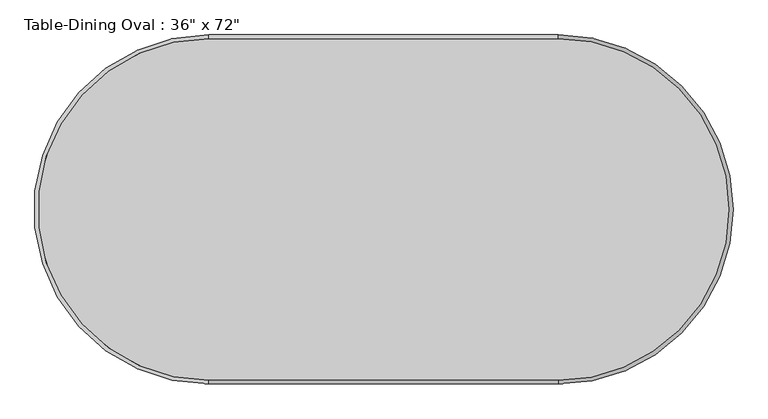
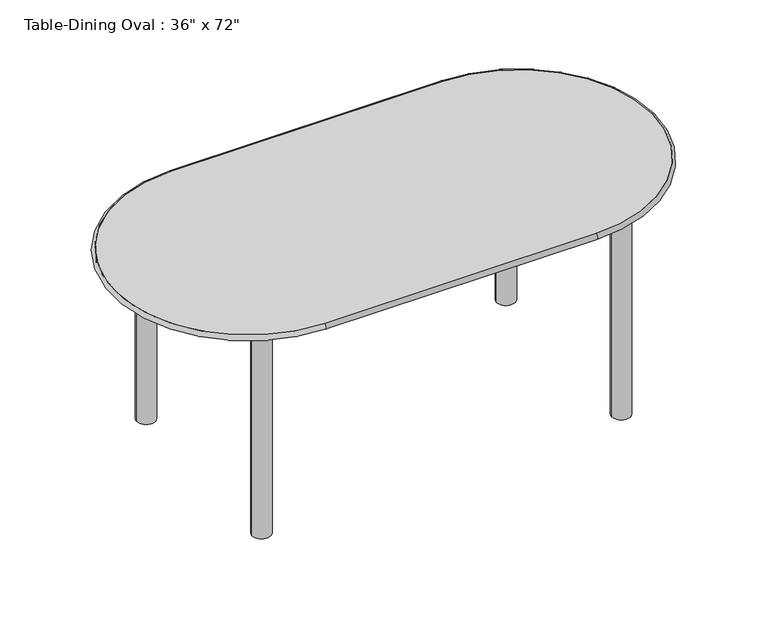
"""IFC4 building model written with IfcOpenShell, lengths in millimetres: furniture geometry."""

import ifcopenshell
import ifcopenshell.guid

model = None  # the IFC model being written
_history = None  # IfcOwnerHistory: only IFC2X3 demands one
_inside = {}  # id of a spatial element -> (the spatial element, [elements in it])
_under = {}  # id of a project, library or spatial element -> (it, [spatial elements below it])
_declared = {}  # id of a project -> (the project, [libraries it declares])
_typed = {}  # id of a type object -> (the type object, [elements of that type])
_made_of = {}  # id of a material, layer set ... -> (it, [elements and type objects made of it])


def new_model(schema):
    """Start an empty IFC model of exactly this schema.

    Asked for "IFC4X3", IfcOpenShell would pick the latest addendum, in which some entities
    have other attributes; the version numbers below select the first issue.
    IFC2X3 requires an IfcOwnerHistory on every rooted entity: one is made here for all.
    """
    global model, _history
    if schema == "IFC4X3":
        model = ifcopenshell.file(schema_version=(4, 3, 0, 0))
    else:
        model = ifcopenshell.file(schema=schema)
    _inside.clear()
    _under.clear()
    _declared.clear()
    _typed.clear()
    _made_of.clear()
    _history = None
    if model.schema == "IFC2X3":
        org = make("IfcOrganization", Name="unknown")
        user = make(
            "IfcPersonAndOrganization",
            ThePerson=make("IfcPerson", FamilyName="unknown"),
            TheOrganization=org,
        )
        app = make(
            "IfcApplication",
            ApplicationDeveloper=org,
            Version="unknown",
            ApplicationFullName="unknown",
            ApplicationIdentifier="unknown",
        )
        _history = make(
            "IfcOwnerHistory",
            OwningUser=user,
            OwningApplication=app,
            ChangeAction="ADDED",
            CreationDate=0,
        )
    return model


def make(cls, **values):
    """One entity of the class cls with the attributes given. An attribute that is None is left unset."""
    return model.create_entity(
        cls, **{name: value for name, value in values.items() if value is not None}
    )


def rooted(cls, **values):
    """An entity with a GlobalId (a new one), such as an element, a storey or a relation."""
    return make(cls, GlobalId=ifcopenshell.guid.new(), OwnerHistory=_history, **values)


def si_unit(unit_type, name, prefix=None):
    """IfcSIUnit, for example si_unit("LENGTHUNIT", "METRE", prefix="MILLI")."""
    return make("IfcSIUnit", UnitType=unit_type, Prefix=prefix, Name=name)


def assignment(units):
    """IfcUnitAssignment: the units of a project."""
    return None if units is None else make("IfcUnitAssignment", Units=units)


def point(xyz):
    """IfcCartesianPoint."""
    return None if xyz is None else make("IfcCartesianPoint", Coordinates=xyz)


def direction(xyz):
    """IfcDirection."""
    return None if xyz is None else make("IfcDirection", DirectionRatios=xyz)


def frame(location, z_axis=None, x_axis=None):
    """IfcAxis2Placement3D, a coordinate frame: its origin and axes. An axis left out is left unset."""
    return make(
        "IfcAxis2Placement3D",
        Location=point(location),
        Axis=direction(z_axis),
        RefDirection=direction(x_axis),
    )


def frame_2d(location, x_axis=None):
    """IfcAxis2Placement2D, a coordinate frame in the plane: its origin and x axis."""
    return make(
        "IfcAxis2Placement2D", Location=point(location), RefDirection=direction(x_axis)
    )


def origin():
    """The frame at (0, 0, 0) with its axes left unset."""
    return frame((0.0, 0.0, 0.0))


def origin_with_axes():
    """The frame at (0, 0, 0) with the z axis (0, 0, 1) and the x axis (1, 0, 0) written out."""
    return frame((0.0, 0.0, 0.0), z_axis=(0.0, 0.0, 1.0), x_axis=(1.0, 0.0, 0.0))


def place(relative_to, where):
    """IfcLocalPlacement: puts the frame where relative to a parent placement (None: the world)."""
    return make(
        "IfcLocalPlacement", PlacementRelTo=relative_to, RelativePlacement=where
    )


def context(
    kind, dimensions, precision=None, world=None, true_north=None, identifier=None
):
    """IfcGeometricRepresentationContext, for example the 3D "Model" context."""
    return make(
        "IfcGeometricRepresentationContext",
        ContextIdentifier=identifier,
        ContextType=kind,
        CoordinateSpaceDimension=dimensions,
        Precision=precision,
        WorldCoordinateSystem=world,
        TrueNorth=true_north,
    )


def project(units=None, contexts=None):
    """IfcProject with its units and contexts."""
    return rooted(
        "IfcProject",
        Name="project",
        RepresentationContexts=contexts,
        UnitsInContext=assignment(units),
    )


def spatial(cls, under=None, at=None, **own):
    """A site, building, storey or space (cls), placed at a placement, below another one or the project."""
    s = rooted(cls, ObjectPlacement=at, **own)
    if under is not None:
        _under.setdefault(under.id(), (under, []))[1].append(s)
    return s


def polyline(points):
    """IfcPolyline through the points."""
    return make("IfcPolyline", Points=[point(p) for p in points])


def circle_curve(where, radius):
    """IfcCircle in the frame where."""
    return make("IfcCircle", Position=where, Radius=radius)


def ellipse_curve(where, semi_axis1, semi_axis2):
    """IfcEllipse in the frame where."""
    return make(
        "IfcEllipse", Position=where, SemiAxis1=semi_axis1, SemiAxis2=semi_axis2
    )


def trimmed(basis, trim1, trim2, sense, master):
    """IfcTrimmedCurve: the piece of a basis curve between two trims."""
    return make(
        "IfcTrimmedCurve",
        BasisCurve=basis,
        Trim1=trim1,
        Trim2=trim2,
        SenseAgreement=sense,
        MasterRepresentation=master,
    )


def segment(curve, same_sense, transition):
    """IfcCompositeCurveSegment."""
    return make(
        "IfcCompositeCurveSegment",
        Transition=transition,
        SameSense=same_sense,
        ParentCurve=curve,
    )


def composite_curve(segments, self_intersect=None):
    """IfcCompositeCurve: segments joined end to end."""
    return make("IfcCompositeCurve", Segments=segments, SelfIntersect=self_intersect)


def outline(outer, holes=None, kind="AREA"):
    """IfcArbitraryClosedProfileDef: a profile drawn as a closed curve; with holes, ...WithVoids."""
    if holes is None:
        return make("IfcArbitraryClosedProfileDef", ProfileType=kind, OuterCurve=outer)
    return make(
        "IfcArbitraryProfileDefWithVoids",
        ProfileType=kind,
        OuterCurve=outer,
        InnerCurves=holes,
    )


def extrude(swept, where, along, depth):
    """IfcExtrudedAreaSolid: the profile swept, set in the frame where, extruded along a direction by depth."""
    return make(
        "IfcExtrudedAreaSolid",
        SweptArea=swept,
        Position=where,
        ExtrudedDirection=direction(along),
        Depth=depth,
    )


def shape(context_of_items, identifier, shape_type, items):
    """IfcShapeRepresentation: the items that make up one representation, for example the "Body"."""
    return make(
        "IfcShapeRepresentation",
        ContextOfItems=context_of_items,
        RepresentationIdentifier=identifier,
        RepresentationType=shape_type,
        Items=items,
    )


def source(mapping_origin, context_of_items, identifier, shape_type, items):
    """IfcRepresentationMap: a shape defined once, which mapped items show again and again."""
    return make(
        "IfcRepresentationMap",
        MappingOrigin=mapping_origin,
        MappedRepresentation=shape(context_of_items, identifier, shape_type, items),
    )


def transform(
    local_origin,
    x_axis=None,
    y_axis=None,
    z_axis=None,
    scale=None,
    scale2=None,
    scale3=None,
    uniform=True,
):
    """IfcCartesianTransformationOperator3D, or its non-uniform kind. x_axis, y_axis, z_axis: its Axis1, 2, 3."""
    if uniform:
        return make(
            "IfcCartesianTransformationOperator3D",
            Axis1=direction(x_axis),
            Axis2=direction(y_axis),
            LocalOrigin=point(local_origin),
            Scale=scale,
            Axis3=direction(z_axis),
        )
    return make(
        "IfcCartesianTransformationOperator3DnonUniform",
        Axis1=direction(x_axis),
        Axis2=direction(y_axis),
        LocalOrigin=point(local_origin),
        Scale=scale,
        Axis3=direction(z_axis),
        Scale2=scale2,
        Scale3=scale3,
    )


def mapped(mapping_source, mapping_target):
    """IfcMappedItem: shows the shape of a source again, moved by a transform."""
    return make(
        "IfcMappedItem", MappingSource=mapping_source, MappingTarget=mapping_target
    )


def made_of(thing, what):
    """Note that an element or type object is made of a material, layer set ...; save() writes the relation."""
    if what is not None:
        _made_of.setdefault(what.id(), (what, []))[1].append(thing)
    return thing


def element(
    cls,
    number,
    at=None,
    inside=None,
    cuts=None,
    type_object=None,
    material=None,
    context=None,
    identifier="Body",
    shape_type=None,
    held_by="IfcProductDefinitionShape",
    body=None,
    shapes=None,
    **own,
):
    """One element of the class cls, such as IfcWall. Its Tag is "e" and its number.

    at: its placement. inside: the storey or other place that contains it. cuts: it is an
    opening in that element (IfcRelVoidsElement). A single representation is given by context,
    identifier, shape_type and body (its items); several are given by shapes. held_by: the class
    of the entity that holds the representations. save() writes the other relations.
    """
    e = rooted(cls, Tag="e%d" % number, ObjectPlacement=at, **own)
    if body is not None:
        shapes = [shape(context, identifier, shape_type, body)]
    if shapes is not None:
        e.Representation = make(held_by, Representations=shapes)
    if inside is not None:
        _inside.setdefault(inside.id(), (inside, []))[1].append(e)
    if cuts is not None:
        rooted(
            "IfcRelVoidsElement", RelatingBuildingElement=cuts, RelatedOpeningElement=e
        )
    if type_object is not None:
        _typed.setdefault(type_object.id(), (type_object, []))[1].append(e)
    return made_of(e, material)


def aggregate(whole, parts):
    """IfcRelAggregates: a whole, such as a stair, and the parts it consists of."""
    return rooted("IfcRelAggregates", RelatingObject=whole, RelatedObjects=parts)


def save(model, path):
    """Write the relations noted so far, then the file.

    IfcRelAggregates (storeys below a building ...), IfcRelContainedInSpatialStructure (elements
    in a storey), IfcRelDefinesByType, IfcRelAssociatesMaterial and IfcRelDeclares: one each for
    every whole, place, type object, material and project.
    """
    for whole, parts in _under.values():
        aggregate(whole, parts)
    for where, things in _inside.values():
        rooted(
            "IfcRelContainedInSpatialStructure",
            RelatedElements=things,
            RelatingStructure=where,
        )
    for kind, things in _typed.values():
        rooted("IfcRelDefinesByType", RelatedObjects=things, RelatingType=kind)
    for what, things in _made_of.values():
        rooted("IfcRelAssociatesMaterial", RelatedObjects=things, RelatingMaterial=what)
    for by, libraries in _declared.values():
        rooted("IfcRelDeclares", RelatingContext=by, RelatedDefinitions=libraries)
    model.write(path)


def plane_surface(at):
    """IfcPlane: the flat surface through the origin of the frame at, square to its z axis."""
    return make("IfcPlane", Position=at)


def cylinder_surface(at, radius):
    """IfcCylindricalSurface: all points at the distance radius from the z axis of the frame at."""
    return make("IfcCylindricalSurface", Position=at, Radius=radius)


def revolved_surface(curve, axis_point, axis_direction):
    """IfcSurfaceOfRevolution: the curve turned about the line through axis_point along axis_direction."""
    return make(
        "IfcSurfaceOfRevolution",
        SweptCurve=make("IfcArbitraryOpenProfileDef", ProfileType="CURVE", Curve=curve),
        AxisPosition=make("IfcAxis1Placement", Location=point(axis_point), Axis=direction(axis_direction)),
    )


def advanced_brep(points, edges, surfaces, faces):
    """IfcAdvancedBrep: a solid bounded by faces that lie on surfaces and meet in shared edges.

    An edge is (start, end): straight between two places in points (the first is 0);
    or (start, end, curve); or (start, end, curve, False) where it runs against its curve.
    A face is (place in surfaces, loops), or (place, loops, False) where it looks against
    its surface's normal. A loop lists edges by number (the first is 1), with a minus sign
    where the edge is run from its end to its start. The first loop is the outer one.
    """
    corners = [point(p) for p in points]
    vertices = [make("IfcVertexPoint", VertexGeometry=c) for c in corners]
    made = []
    for start, end, *more in edges:
        made.append(
            make(
                "IfcEdgeCurve",
                EdgeStart=vertices[start],
                EdgeEnd=vertices[end],
                EdgeGeometry=more[0] if more else make("IfcPolyline", Points=[corners[start], corners[end]]),
                SameSense=more[1] if len(more) > 1 else True,
            )
        )
    hull = []
    for where, loops, *sense in faces:
        bounds = []
        for j, loop in enumerate(loops):
            ring = [make("IfcOrientedEdge", EdgeElement=made[abs(k) - 1], Orientation=k > 0) for k in loop]
            bounds.append(
                make(
                    "IfcFaceOuterBound" if j == 0 else "IfcFaceBound",
                    Bound=make("IfcEdgeLoop", EdgeList=ring),
                    Orientation=True,
                )
            )
        hull.append(make("IfcAdvancedFace", Bounds=bounds, FaceSurface=surfaces[where], SameSense=sense[0] if sense else True))
    return make("IfcAdvancedBrep", Outer=make("IfcClosedShell", CfsFaces=hull))


def furniture_8c0aa46a(model_context):
    return source(origin(), model_context, "Body", "SolidModel", [
        advanced_brep(
        [(-859.0196721, -805.7733607, 762.0), (-859.0196721, -805.7733607, 742.95), (55.3803279, -805.7733607, 742.95), (55.3803279, -805.7733607, 762.0), (55.3803279, 89.5766393, 762.0), (55.3803279, 89.5766393, 742.95), (-859.0196721, 89.5766393, 742.95), (-859.0196721, 89.5766393, 762.0)],
        [
            (0, 1, circle_curve(frame((-859.0196721, -805.7733607, 752.475), z_axis=(1.0, 0.0, 0.0), x_axis=(0.0, 1.0000000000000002, 0.0)), 9.525)),
            (1, 2),
            (2, 3, circle_curve(frame((55.3803279, -805.7733607, 752.475), z_axis=(-1.0, 0.0, 0.0), x_axis=(0.0, 1.0000000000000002, 0.0)), 9.525)),
            (3, 0),
            (1, 0),
            (3, 2),
            (4, 3, circle_curve(frame((55.3803279, -358.0983607, 762.0), z_axis=(0.0, 0.0, -1.0), x_axis=(0.0, -1.0, 0.0)), 447.675)),
            (2, 5, circle_curve(frame((55.3803279, -358.0983607, 742.95), z_axis=(0.0, 0.0, 1.0), x_axis=(0.0, -1.0, 0.0)), 447.675)),
            (5, 4, circle_curve(frame((55.3803279, 89.5766393, 752.475), z_axis=(1.0000000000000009, 0.0, 0.0), x_axis=(0.0, -1.0000000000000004, 0.0)), 9.525)),
            (4, 5),
            (5, 6),
            (6, 7, circle_curve(frame((-859.0196721, 89.5766393, 752.475), z_axis=(1.0, 0.0, 0.0), x_axis=(0.0, -1.0000000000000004, 0.0)), 9.525)),
            (7, 4),
            (7, 6),
            (0, 7, circle_curve(frame((-859.0196721, -358.0983607, 762.0), z_axis=(0.0, 0.0, -1.0), x_axis=(0.0, 1.0, 0.0)), 447.675)),
            (6, 1, circle_curve(frame((-859.0196721, -358.0983607, 742.95), z_axis=(0.0, 0.0, 1.0), x_axis=(0.0, 1.0, 0.0)), 447.675)),
        ],
        [
            cylinder_surface(frame((-859.0196721, -805.7733607, 752.475), z_axis=(-1.0000000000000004, 0.0, 0.0), x_axis=(0.0, 1.0000000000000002, 0.0)), 9.525),
            plane_surface(frame((-859.0196721, -805.7733607, 762.0), z_axis=(0.0, 1.0, 0.0), x_axis=(1.0, 0.0, 0.0))),
            revolved_surface(trimmed(ellipse_curve(frame((55.3803279, -805.7733607, 752.475), z_axis=(-1.0000000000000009, 0.0, 0.0), x_axis=(0.0, 1.0000000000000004, 0.0)), 9.525, 9.525), [point((55.3803279, -805.7733607, 742.95))], [point((55.3803279, -805.7733607, 762.0))], True, "CARTESIAN"), (55.3803279, -358.0983607, 0.0), (0.0, 0.0, 1.0)),
            revolved_surface(polyline([(55.3803279, -805.7733607, 762.0), (55.3803279, -805.7733607, 742.95)]), (55.3803279, -358.0983607, 0.0), (0.0, 0.0, 1.0)),
            cylinder_surface(frame((55.3803279, 89.5766393, 752.475), z_axis=(1.0000000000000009, 0.0, 0.0), x_axis=(0.0, -1.0000000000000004, 0.0)), 9.525),
            plane_surface(frame((55.3803279, 89.5766393, 762.0), z_axis=(0.0, -1.0, 0.0), x_axis=(-1.0, 0.0, 0.0))),
            revolved_surface(trimmed(ellipse_curve(frame((-859.0196721, 89.5766393, 752.475), z_axis=(1.0000000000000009, 0.0, 0.0), x_axis=(0.0, -1.0000000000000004, 0.0)), 9.525, 9.525), [point((-859.0196721, 89.5766393, 742.95))], [point((-859.0196721, 89.5766393, 762.0))], True, "CARTESIAN"), (-859.0196721, -358.0983607, 0.0), (0.0, 0.0, 1.0)),
            revolved_surface(polyline([(-859.0196721, 89.57663930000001, 762.0), (-859.0196721, 89.57663930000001, 742.95)]), (-859.0196721, -358.0983607, 0.0), (0.0, 0.0, 1.0)),
        ],
        [
            (0, [[1, 2, 3, 4]]),
            (1, [[5, -4, 6, -2]]),
            (2, [[7, -3, 8, 9]]),
            (3, [[-8, -6, -7, 10]]),
            (4, [[-9, 11, 12, 13]]),
            (5, [[-10, -13, 14, -11]]),
            (6, [[15, -12, 16, -1]]),
            (7, [[-16, -14, -15, -5]]),
        ],
    ),
        extrude(outline(composite_curve([segment(trimmed(circle_curve(frame_2d((-1008.2446721, -21.5483607)), 31.75), [point((-1039.9946721, -21.5483607))], [point((-976.4946721, -21.5483607))], False, "CARTESIAN"), True, "CONTINUOUS"), segment(trimmed(circle_curve(frame_2d((-1008.2446721, -21.5483607)), 31.75), [point((-976.4946721, -21.5483607))], [point((-1039.9946721, -21.5483607))], False, "CARTESIAN"), True, "CONTINUOUS")], self_intersect=False)), origin_with_axes(), (0.0, 0.0, 1.0), 742.95),
        extrude(outline(composite_curve([segment(trimmed(circle_curve(frame_2d((-1008.2446721, -694.6483607)), 31.75), [point((-1039.9946721, -694.6483607))], [point((-976.4946721, -694.6483607))], False, "CARTESIAN"), True, "CONTINUOUS"), segment(trimmed(circle_curve(frame_2d((-1008.2446721, -694.6483607)), 31.75), [point((-976.4946721, -694.6483607))], [point((-1039.9946721, -694.6483607))], False, "CARTESIAN"), True, "CONTINUOUS")], self_intersect=False)), origin_with_axes(), (0.0, 0.0, 1.0), 742.95),
        extrude(outline(composite_curve([segment(trimmed(circle_curve(frame_2d((204.6053279, -21.5483607)), 31.75), [point((172.8553279, -21.5483607))], [point((236.3553279, -21.5483607))], False, "CARTESIAN"), True, "CONTINUOUS"), segment(trimmed(circle_curve(frame_2d((204.6053279, -21.5483607)), 31.75), [point((236.3553279, -21.5483607))], [point((172.8553279, -21.5483607))], False, "CARTESIAN"), True, "CONTINUOUS")], self_intersect=False)), origin_with_axes(), (0.0, 0.0, 1.0), 742.95),
        extrude(outline(composite_curve([segment(trimmed(circle_curve(frame_2d((204.6053279, -694.6483607)), 31.75), [point((172.8553279, -694.6483607))], [point((236.3553279, -694.6483607))], False, "CARTESIAN"), True, "CONTINUOUS"), segment(trimmed(circle_curve(frame_2d((204.6053279, -694.6483607)), 31.75), [point((236.3553279, -694.6483607))], [point((172.8553279, -694.6483607))], False, "CARTESIAN"), True, "CONTINUOUS")], self_intersect=False)), origin_with_axes(), (0.0, 0.0, 1.0), 742.95),
        extrude(outline(polyline([(223.6553279, -2.4983607), (223.6553279, -713.6983607), (-1027.2946721, -713.6983607), (-1027.2946721, -2.4983607), (223.6553279, -2.4983607)]), holes=[polyline([(204.6053279, -21.5483607), (-1008.2446721, -21.5483607), (-1008.2446721, -694.6483607), (204.6053279, -694.6483607), (204.6053279, -21.5483607)])]), frame((0.0, 0.0, 692.15), z_axis=(0.0, 0.0, 1.0), x_axis=(1.0, 0.0, 0.0)), (0.0, 0.0, 1.0), 50.8),
        extrude(outline(composite_curve([segment(polyline([(-859.0196721, 89.5766393), (55.3803279, 89.5766393)]), True, "CONTINUOUS"), segment(trimmed(circle_curve(frame_2d((55.3803279, -358.0983607)), 447.675), [point((55.3803279, 89.5766393))], [point((503.0553279, -358.0983607))], False, "CARTESIAN"), True, "CONTINUOUS"), segment(trimmed(circle_curve(frame_2d((55.3803279, -358.0983607)), 447.675), [point((503.0553279, -358.0983607))], [point((55.3803279, -805.7733607))], False, "CARTESIAN"), True, "CONTINUOUS"), segment(polyline([(55.3803279, -805.7733607), (-859.0196721, -805.7733607)]), True, "CONTINUOUS"), segment(trimmed(circle_curve(frame_2d((-859.0196721, -358.0983607)), 447.675), [point((-859.0196721, -805.7733607))], [point((-1306.6946721, -358.0983607))], False, "CARTESIAN"), True, "CONTINUOUS"), segment(trimmed(circle_curve(frame_2d((-859.0196721, -358.0983607)), 447.675), [point((-1306.6946721, -358.0983607))], [point((-859.0196721, 89.5766393))], False, "CARTESIAN"), True, "CONTINUOUS")], self_intersect=False)), frame((0.0, 0.0, 742.95), z_axis=(0.0, 0.0, 1.0), x_axis=(1.0, 0.0, 0.0)), (0.0, 0.0, 1.0), 19.05),
    ])


if __name__ == "__main__":
    model = new_model("IFC4")
    model_context = context("Model", 3, world=origin())
    ifc_project = project(units=[si_unit("LENGTHUNIT", "METRE", prefix="MILLI")], contexts=[model_context])
    site = spatial("IfcSite", under=ifc_project)
    building = spatial("IfcBuilding", under=site)
    placement = place(None, origin())
    furniture_shape = furniture_8c0aa46a(model_context)
    element("IfcFurniture", 1, ObjectType="Table-Dining Oval : 36\" x 72\"", at=placement, inside=building, context=model_context, shape_type="MappedRepresentation", body=[
        mapped(furniture_shape, transform((0.0, 0.0, 0.0), x_axis=(1.0, 0.0, 0.0), y_axis=(0.0, 1.0, 0.0), z_axis=(0.0, 0.0, 1.0))),
    ])
    save(model, "model.ifc")
